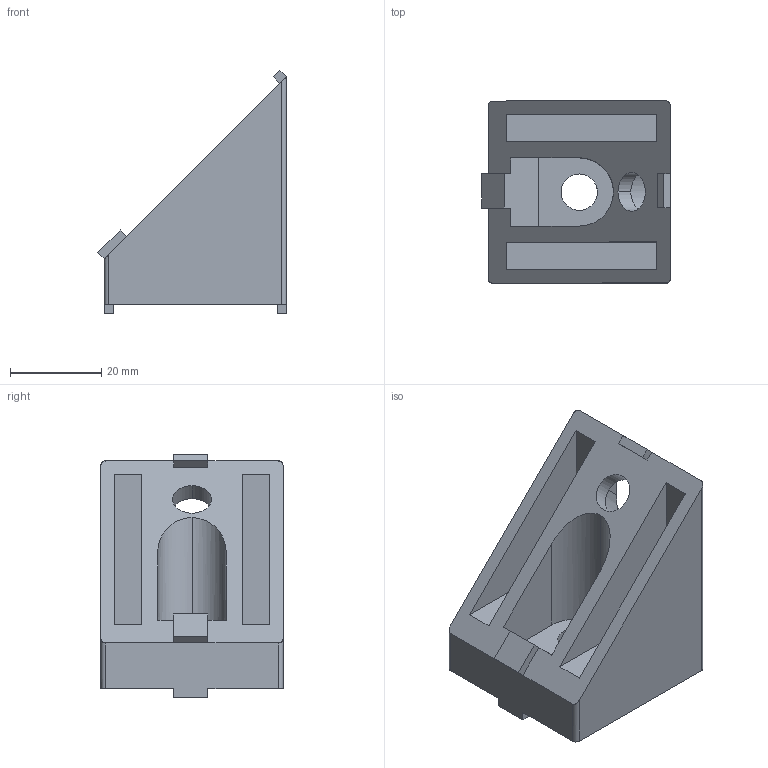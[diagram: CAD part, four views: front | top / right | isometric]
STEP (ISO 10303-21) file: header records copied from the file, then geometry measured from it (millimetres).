
FILE_DESCRIPTION (( 'STEP AP203' ), '1' );
FILE_NAME ('64－45度压铸角件.STEP', '2015-07-08T01:46:37', ( '' ), ( '' ), 'SwSTEP 2.0', 'SolidWorks 2013', '' );
FILE_SCHEMA (( 'CONFIG_CONTROL_DESIGN' ));
Length unit declared in the file: millimetre
Products named in the file (1): 64ㄜ45僅揤翉褒璃
Bounding box: 41.41 x 40 x 53.41 mm (x, y, z)
Volume: 34401.2 mm3; surface area: 12503.7 mm2
Topology: 1 solids, 1 shells, 50 faces, 131 edges, 86 vertices
Faces by surface type: plane 39, cylinder 11
Entity records: 1603 total; most frequent: CARTESIAN_POINT 289, ORIENTED_EDGE 262, DIRECTION 241, EDGE_CURVE 131, LINE 109, VECTOR 109, VERTEX_POINT 86, AXIS2_PLACEMENT_3D 66
